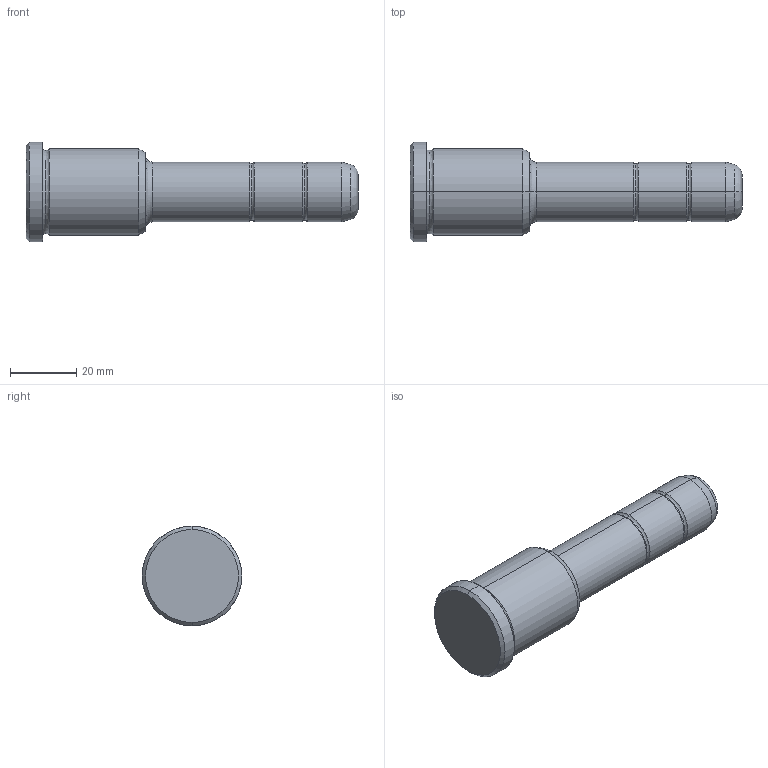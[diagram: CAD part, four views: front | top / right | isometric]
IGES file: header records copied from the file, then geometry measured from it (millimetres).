
Start section: START RECORD GO HERE.
Global section: file name: 351-18X36X100.igs; native system: DASSAULT SYSTEMES CATIA V5 R20 - www.3ds.com; preprocessor: CATIA Version 5 Release 20 ; author: Utente; organization: NB04-ASUS; date: 20210819.144124; units: millimetre
Bounding box: 100 x 30 x 30 mm (x, y, z)
Surface area: 7805.8 mm2 (no closed solid volume)
Topology: 0 solids, 0 shells, 36 faces, 204 edges, 204 vertices
Faces by surface type: revolution 32, plane 4
